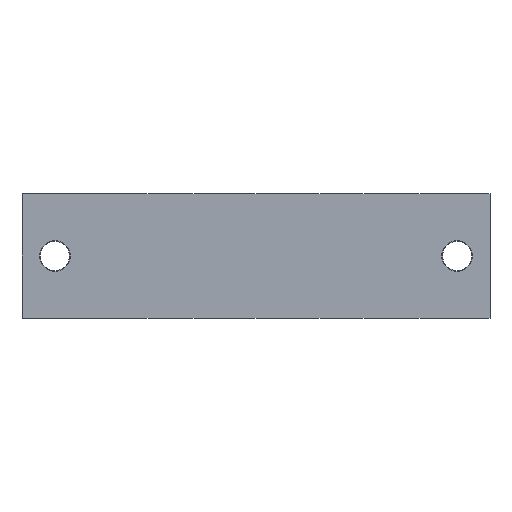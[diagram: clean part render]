
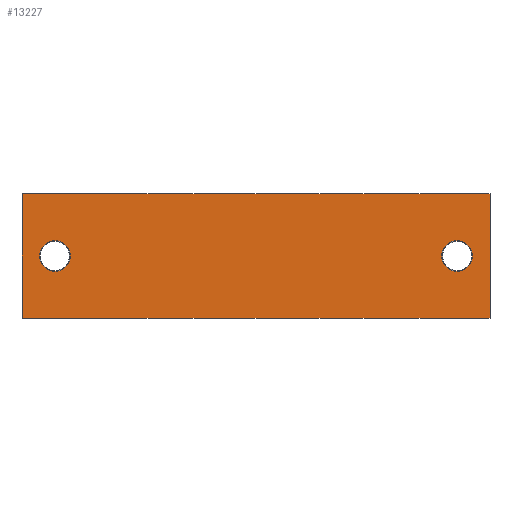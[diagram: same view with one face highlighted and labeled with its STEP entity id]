
A CAD part, front view. The second image highlights one B-rep face of the part: STEP entity #13227.
In plain terms, the highlighted planar face has unit normal (0, -1, 0).
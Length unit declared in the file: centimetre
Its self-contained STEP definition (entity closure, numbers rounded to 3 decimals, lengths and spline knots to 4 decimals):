
#931=VECTOR('',#14339,1.);
#1422=VECTOR('',#15138,1.);
#1915=VECTOR('',#16397,1.);
#1916=VECTOR('',#16398,1.);
#2368=LINE('',#18028,#931);
#2859=LINE('',#19867,#1422);
#3352=LINE('',#21455,#1915);
#3353=LINE('',#21456,#1916);
#3821=VERTEX_POINT('',#18029);
#3822=VERTEX_POINT('',#18030);
#3833=VERTEX_POINT('',#18054);
#4268=VERTEX_POINT('',#19868);
#4269=VERTEX_POINT('',#19869);
#4280=VERTEX_POINT('',#19893);
#4791=CIRCLE('',#21681,0.21);
#4834=CIRCLE('',#21918,0.21);
#5554=EDGE_CURVE('',#3821,#3822,#2368,.T.);
#5566=EDGE_CURVE('',#3833,#3833,#4791,.T.);
#6209=EDGE_CURVE('',#4268,#4269,#2859,.T.);
#6221=EDGE_CURVE('',#4280,#4280,#4834,.T.);
#6952=EDGE_CURVE('',#4269,#3821,#3352,.T.);
#6953=EDGE_CURVE('',#3822,#4268,#3353,.T.);
#10745=ORIENTED_EDGE('',*,*,#5566,.T.);
#10746=ORIENTED_EDGE('',*,*,#6221,.T.);
#10747=ORIENTED_EDGE('',*,*,#6952,.T.);
#10748=ORIENTED_EDGE('',*,*,#5554,.T.);
#10749=ORIENTED_EDGE('',*,*,#6953,.T.);
#10750=ORIENTED_EDGE('',*,*,#6209,.T.);
#11692=EDGE_LOOP('',(#10745));
#11693=EDGE_LOOP('',(#10746));
#11694=EDGE_LOOP('',(#10747,#10748,#10749,#10750));
#12500=FACE_BOUND('',#11692,.T.);
#12501=FACE_BOUND('',#11693,.T.);
#12502=FACE_BOUND('',#11694,.T.);
#13227=ADVANCED_FACE('',(#12500,#12501,#12502),#13726,.T.);
#13726=PLANE('',#22379);
#14339=DIRECTION('',(0.,0.,1.));
#14357=DIRECTION('',(0.,1.,0.));
#14358=DIRECTION('',(0.21,0.,0.));
#15138=DIRECTION('',(0.,0.,-1.));
#15156=DIRECTION('',(0.,1.,0.));
#15157=DIRECTION('',(-0.21,0.,0.));
#16396=DIRECTION('',(0.,-1.,0.));
#16397=DIRECTION('',(1.,0.,0.));
#16398=DIRECTION('',(-1.,0.,0.));
#18028=CARTESIAN_POINT('',(4.4,0.,0.85));
#18029=CARTESIAN_POINT('',(4.4,0.,-0.85));
#18030=CARTESIAN_POINT('',(4.4,0.,0.85));
#18053=CARTESIAN_POINT('',(3.95,0.,0.));
#18054=CARTESIAN_POINT('',(3.74,0.,0.));
#19867=CARTESIAN_POINT('',(-2.,0.,-0.85));
#19868=CARTESIAN_POINT('',(-2.,0.,0.85));
#19869=CARTESIAN_POINT('',(-2.,0.,-0.85));
#19892=CARTESIAN_POINT('',(-1.55,0.,0.));
#19893=CARTESIAN_POINT('',(-1.34,0.,0.));
#21454=CARTESIAN_POINT('',(0.,0.,0.));
#21455=CARTESIAN_POINT('',(0.,0.,-0.85));
#21456=CARTESIAN_POINT('',(-1.1,0.,0.85));
#21681=AXIS2_PLACEMENT_3D('',#18053,#14357,#14358);
#21918=AXIS2_PLACEMENT_3D('',#19892,#15156,#15157);
#22379=AXIS2_PLACEMENT_3D('',#21454,#16396,$);
